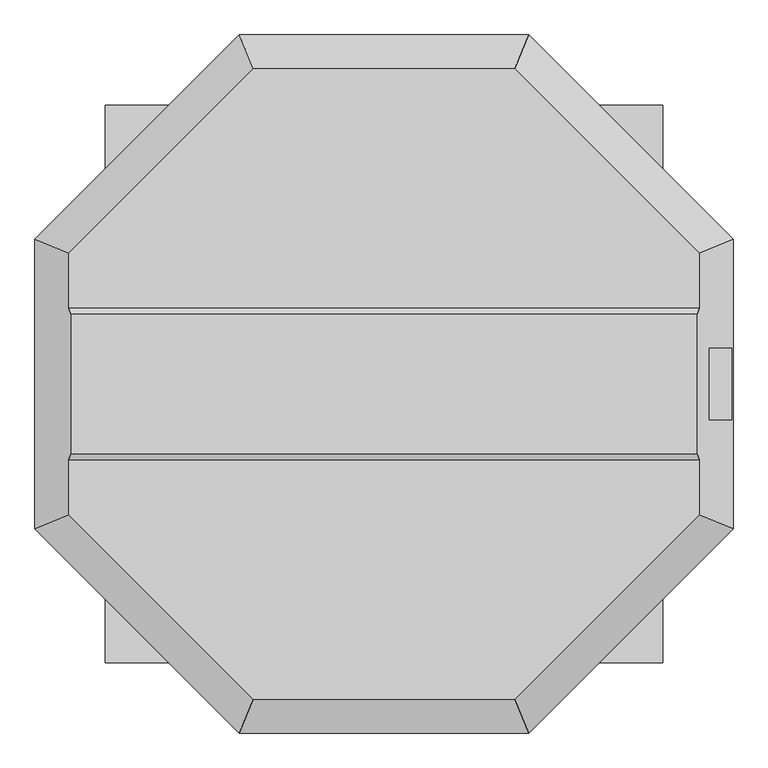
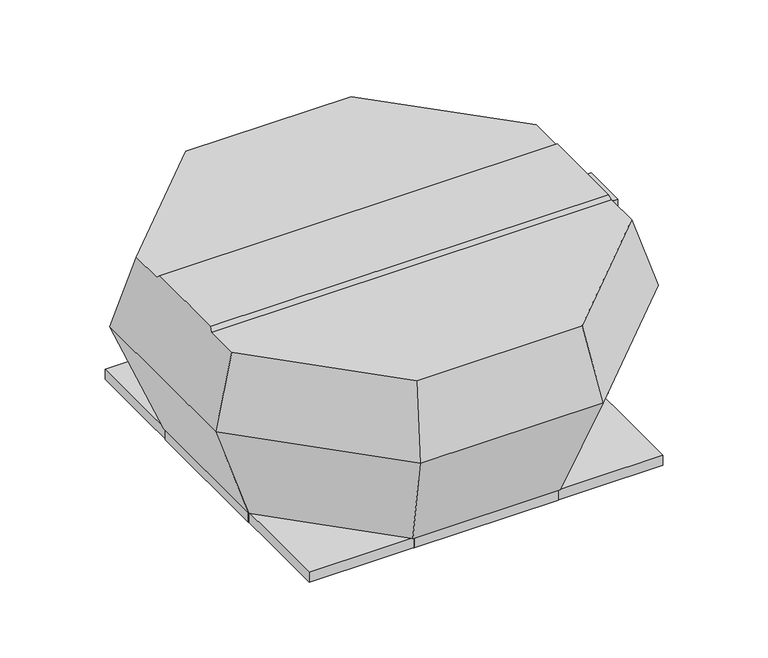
"""IFC4 building model written with IfcOpenShell, lengths in millimetres: unitary equipment geometry, VE-Wentylator-ParaForma-Harmann-VIVER_PS_EC-Wywiewny : 4-560/12000TEC."""

from ifc_helpers import new_model, si_unit, point, frame, frame_2d, origin, place, context, project, spatial, polyline, circle_curve, ellipse_curve, trimmed, segment, composite_curve, outline, extrude, faceted_brep, source, transform, mapped, element, save
from ifc_brep_helpers import plane_surface, revolved_surface, advanced_brep


def unitary_equipment_7c28f33a(model_context):
    return source(origin(), model_context, "Body", "SolidModel", [
        advanced_brep(
        [(523.3185879, -116.75, 494.7), (523.3185879, 116.75, 494.7), (-523.3185879, 116.75, 494.7), (-523.3185879, -116.75, 494.7), (526.1778459, 126.2, 485.2), (-526.1778459, 126.2, 485.2), (526.1778459, -126.2, 485.2), (-526.1778459, -126.2, 485.2), (217.95, -526.1778459, 485.2), (526.1778459, -217.95, 485.2), (-526.1778459, -217.95, 485.2), (-217.95, -526.1778459, 485.2), (526.1778459, 217.95, 485.2), (217.95, 526.1778459, 485.2), (-217.95, 526.1778459, 485.2), (-526.1778459, 217.95, 485.2), (241.4, -582.791154, 297.1), (582.791154, -241.4, 297.1), (582.791154, 241.4, 297.1), (580.4, -60.0, 305.0447055), (543.3032964, -60.0, 428.3), (543.3032964, 60.0, 428.3), (580.4, 60.0, 305.0447055), (571.2036348, 0.0, 335.6), (552.5432143, 0.0, 397.6), (241.4, 582.791154, 297.1), (-241.4, 582.791154, 297.1), (-582.791154, 241.4, 297.1), (-582.791154, -241.4, 297.1), (-241.4, -582.791154, 297.1), (580.4, -60.0, 428.3), (580.4, 60.0, 428.3), (580.4, 0.0, 397.6), (580.4, 0.0, 335.6), (193.75, -467.7538777, 1.5), (-193.75, -467.7538777, 1.5), (-467.7538777, -193.75, 1.5), (-467.7538777, 193.75, 1.5), (-193.75, 467.7538777, 1.5), (193.75, 467.7538777, 1.5), (467.7538777, 193.75, 1.5), (467.7538777, -193.75, 1.5)],
        [
            (0, 1),
            (1, 2),
            (2, 3),
            (3, 0),
            (1, 4),
            (4, 5),
            (5, 2),
            (6, 0),
            (3, 7),
            (7, 6),
            (8, 9),
            (9, 6),
            (7, 10),
            (10, 11),
            (11, 8),
            (12, 13),
            (13, 14),
            (14, 15),
            (15, 5),
            (4, 12),
            (8, 16),
            (16, 17),
            (17, 9),
            (17, 18),
            (18, 12),
            (19, 20),
            (20, 21),
            (21, 22),
            (22, 19),
            (23, 24, ellipse_curve(frame((561.8734245, 0.0, 366.6), z_axis=(0.9575690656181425, 0.0, 0.2882038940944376), x_axis=(-0.2882038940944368, 0.0, 0.9575690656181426)), 32.373644, 31.0)),
            (24, 23, ellipse_curve(frame((561.8734245, 0.0, 366.6), z_axis=(0.9575690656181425, 0.0, 0.2882038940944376), x_axis=(-0.2882038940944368, 0.0, 0.9575690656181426)), 32.373644, 31.0)),
            (18, 25),
            (25, 13),
            (25, 26),
            (26, 14),
            (26, 27),
            (27, 15),
            (27, 28),
            (28, 10),
            (28, 29),
            (29, 11),
            (29, 16),
            (19, 30),
            (30, 20),
            (31, 22),
            (21, 31),
            (31, 30),
            (32, 33, circle_curve(frame((580.4, 0.0, 366.6), z_axis=(-1.0, 0.0, 0.0), x_axis=(0.0, 0.0, -1.0)), 31.0)),
            (33, 32, circle_curve(frame((580.4, 0.0, 366.6), z_axis=(-1.0, 0.0, 0.0), x_axis=(0.0, 0.0, -1.0)), 31.0)),
            (34, 35),
            (35, 36),
            (36, 37),
            (37, 38),
            (38, 39),
            (39, 40),
            (40, 41),
            (41, 34),
            (41, 17),
            (16, 34),
            (40, 18),
            (39, 25),
            (38, 26),
            (37, 27),
            (36, 28),
            (35, 29),
            (32, 24),
            (23, 33),
        ],
        [
            plane_surface(frame((0.0, 0.0, 494.7), z_axis=(0.0, 0.0, 1.0), x_axis=(0.0, 1.0, 0.0))),
            plane_surface(frame((0.0, 126.2, 485.2), z_axis=(0.0, 0.7089700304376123, 0.7052386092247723), x_axis=(-1.0, 0.0, 0.0))),
            plane_surface(frame((0.0, -126.2, 485.2), z_axis=(0.0, -0.7089700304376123, 0.7052386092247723), x_axis=(1.0, 0.0, 0.0))),
            plane_surface(frame((0.0, 0.0, 485.2), z_axis=(0.0, 0.0, 1.0000000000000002), x_axis=(0.7071067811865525, 0.7071067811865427, 0.0))),
            plane_surface(frame((412.095577, -412.095577, 297.1), z_axis=(0.6771035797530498, -0.6771035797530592, 0.2882038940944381), x_axis=(0.7071067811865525, 0.7071067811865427, 0.0))),
            plane_surface(frame((582.791154, 0.0, 297.1), z_axis=(0.9575690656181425, 0.0, 0.2882038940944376), x_axis=(0.0, 1.0, 0.0))),
            plane_surface(frame((412.095577, 412.095577, 297.1), z_axis=(0.6771035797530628, 0.6771035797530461, 0.2882038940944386), x_axis=(-0.7071067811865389, 0.7071067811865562, 0.0))),
            plane_surface(frame((0.0, 582.791154, 297.1), z_axis=(0.0, 0.9575690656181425, 0.2882038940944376), x_axis=(-1.0, 0.0, 0.0))),
            plane_surface(frame((-412.095577, 412.095577, 297.1), z_axis=(-0.6771035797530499, 0.6771035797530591, 0.28820389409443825), x_axis=(-0.7071067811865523, -0.7071067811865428, 0.0))),
            plane_surface(frame((-582.791154, 0.0, 297.1), z_axis=(-0.9575690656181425, 0.0, 0.2882038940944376), x_axis=(0.0, -1.0, 0.0))),
            plane_surface(frame((-412.095577, -412.095577, 297.1), z_axis=(-0.6771035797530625, -0.6771035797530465, 0.2882038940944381), x_axis=(0.7071067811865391, -0.7071067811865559, 0.0))),
            plane_surface(frame((0.0, -582.791154, 297.1), z_axis=(0.0, -0.9575690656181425, 0.2882038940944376), x_axis=(1.0, 0.0, 0.0))),
            plane_surface(frame((0.0, -60.0, 0.0), z_axis=(0.0, -1.0, 0.0), x_axis=(0.0, 0.0, 1.0))),
            plane_surface(frame((0.0, 60.0, 0.0), z_axis=(0.0, 1.0, 0.0), x_axis=(0.0, 0.0, 1.0))),
            plane_surface(frame((580.4, -60.0, 324.9), z_axis=(1.0, 0.0, 0.0), x_axis=(0.0, 1.0, 0.0))),
            plane_surface(frame((580.4, -60.0, 428.3), z_axis=(0.0, 0.0, 1.0), x_axis=(0.0, 1.0, 0.0))),
            plane_surface(frame((0.0, 0.0, 1.5), z_axis=(0.0, 0.0, -1.0000000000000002), x_axis=(0.7071067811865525, 0.7071067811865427, 0.0))),
            plane_surface(frame((330.7519389, -330.7519389, 1.5), z_axis=(0.6589652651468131, -0.6589652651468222, -0.36267004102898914), x_axis=(0.7071067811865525, 0.7071067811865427, 0.0))),
            plane_surface(frame((467.7538777, 0.0, 1.5), z_axis=(0.931917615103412, 0.0, -0.3626700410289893), x_axis=(0.0, 1.0, 0.0))),
            plane_surface(frame((330.7519389, 330.7519389, 1.5), z_axis=(0.6589652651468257, 0.6589652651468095, -0.36267004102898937), x_axis=(-0.7071067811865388, 0.7071067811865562, 0.0))),
            plane_surface(frame((0.0, 467.7538777, 1.5), z_axis=(0.0, 0.931917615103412, -0.3626700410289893), x_axis=(-1.0, 0.0, 0.0))),
            plane_surface(frame((-330.7519389, 330.7519389, 1.5), z_axis=(-0.6589652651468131, 0.6589652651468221, -0.3626700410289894), x_axis=(-0.7071067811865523, -0.7071067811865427, 0.0))),
            plane_surface(frame((-467.7538777, 0.0, 1.5), z_axis=(-0.931917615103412, 0.0, -0.3626700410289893), x_axis=(0.0, -1.0, 0.0))),
            plane_surface(frame((-330.7519389, -330.7519389, 1.5), z_axis=(-0.6589652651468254, -0.6589652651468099, -0.36267004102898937), x_axis=(0.7071067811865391, -0.7071067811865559, 0.0))),
            plane_surface(frame((0.0, -467.7538777, 1.5), z_axis=(0.0, -0.931917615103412, -0.3626700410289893), x_axis=(1.0, 0.0, 0.0))),
            revolved_surface(polyline([(552.5432142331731, 0.0, 335.6), (580.4, 0.0, 335.6)]), (0.0, 0.0, 366.6), (-1.0, 0.0, 0.0)),
        ],
        [
            (0, [[1, 2, 3, 4]]),
            (1, [[5, 6, 7, -2]]),
            (2, [[8, -4, 9, 10]]),
            (3, [[11, 12, -10, 13, 14, 15]]),
            (3, [[16, 17, 18, 19, -6, 20]]),
            (4, [[-11, 21, 22, 23]]),
            (5, [[-23, 24, 25, -20, -5, -1, -8, -12], [26, 27, 28, 29]]),
            (5, [[30, 31]]),
            (6, [[-16, -25, 32, 33]]),
            (7, [[-17, -33, 34, 35]]),
            (8, [[-18, -35, 36, 37]]),
            (9, [[-37, 38, 39, -13, -9, -3, -7, -19]]),
            (10, [[-14, -39, 40, 41]]),
            (11, [[-15, -41, 42, -21]]),
            (12, [[43, 44, -26]]),
            (13, [[45, -28, 46]]),
            (14, [[47, -43, -29, -45], [48, 49]]),
            (15, [[-47, -46, -27, -44]]),
            (16, [[50, 51, 52, 53, 54, 55, 56, 57]]),
            (17, [[-57, 58, -22, 59]]),
            (18, [[-56, 60, -24, -58]]),
            (19, [[-55, 61, -32, -60]]),
            (20, [[-54, 62, -34, -61]]),
            (21, [[-53, 63, -36, -62]]),
            (22, [[-52, 64, -38, -63]]),
            (23, [[-51, 65, -40, -64]]),
            (24, [[-50, -59, -42, -65]]),
            (25, [[-48, 66, -30, 67]]),
            (25, [[-49, -67, -31, -66]]),
        ],
    ),
        faceted_brep([(464.05, 464.05, -26.5), (464.05, 464.05, 0.0), (-464.05, 464.05, 0.0), (-464.05, 464.05, -26.5), (465.55, 465.55, 1.5), (465.55, 465.55, -26.5), (-465.55, 465.55, -26.5), (-465.55, 465.55, 1.5), (-464.05, -464.05, 0.0), (-464.05, -464.05, -26.5), (-465.55, -465.55, -26.5), (-465.55, -465.55, 1.5), (464.05, -464.05, 0.0), (464.05, -464.05, -26.5), (465.55, -465.55, -26.5), (465.55, -465.55, 1.5)], [[[0, 1, 2, 3]], [[4, 5, 6, 7]], [[3, 2, 8, 9]], [[7, 6, 10, 11]], [[9, 8, 12, 13]], [[11, 10, 14, 15]], [[13, 12, 1, 0]], [[5, 14, 10, 6], [3, 9, 13, 0]], [[15, 14, 5, 4]], [[7, 11, 15, 4]], [[1, 12, 8, 2]]]),
        extrude(outline(composite_curve([segment(trimmed(circle_curve(frame_2d((0.0, 366.6)), 31.0), [point((0.0, 397.6))], [point((0.0, 335.6))], False, "CARTESIAN"), True, "CONTINUOUS"), segment(trimmed(circle_curve(frame_2d((0.0, 366.6)), 31.0), [point((0.0, 335.6))], [point((0.0, 397.6))], False, "CARTESIAN"), True, "CONTINUOUS")], self_intersect=False)), frame((570.4, 0.0, 0.0), z_axis=(1.0, 0.0, 0.0), x_axis=(0.0, 1.0, 0.0)), (0.0, 0.0, 1.0), 10.0),
        faceted_brep([(-465.6, -190.1, -26.6), (-466.6, -190.1, -26.6), (-466.6, 190.1, -26.6), (-465.6, 190.1, -26.6), (-465.6, -190.1, 1.5), (-465.6, 190.1, 1.5), (-466.6, 190.1, 1.5), (-466.6, -190.1, 1.5)], [[[0, 1, 2, 3]], [[4, 5, 6, 7]], [[1, 0, 4, 7]], [[2, 1, 7, 6]], [[3, 2, 6, 5]], [[0, 3, 5, 4]]]),
        faceted_brep([(466.6, -190.1, -26.6), (465.6, -190.1, -26.6), (465.6, 190.1, -26.6), (466.6, 190.1, -26.6), (466.6, 190.1, 1.5), (465.6, 190.1, 1.5), (465.6, -190.1, 1.5), (466.6, -190.1, 1.5), (466.6, -179.8, 1.5), (496.6, -162.5, 1.5), (496.6, 162.5, 1.5), (466.6, 179.8, 1.5), (466.6, 179.8, 0.0), (466.6, -179.8, 0.0), (496.6, 162.5, 0.0), (493.5, 162.5, 0.0), (493.5, -162.5, 0.0), (496.6, -162.5, 0.0), (496.6, -162.5, -21.0), (496.6, 162.5, -21.0), (493.5, -162.5, -21.0), (493.5, 162.5, -21.0)], [[[0, 1, 2, 3]], [[4, 5, 6, 7, 8, 9, 10, 11]], [[1, 0, 7, 6]], [[2, 1, 6, 5]], [[3, 2, 5, 4]], [[0, 3, 4, 11, 12, 13, 8, 7]], [[12, 14, 15, 16, 17, 13]], [[14, 12, 11, 10]], [[10, 9, 17, 18, 19, 14]], [[13, 17, 9, 8]], [[20, 16, 15, 21]], [[16, 20, 18, 17]], [[21, 15, 14, 19]], [[20, 21, 19, 18]]]),
        faceted_brep([(190.1, 465.6, -26.6), (-190.1, 465.6, -26.6), (-190.1, 466.6, -26.6), (190.1, 466.6, -26.6), (190.1, 465.6, 1.5), (190.1, 466.6, 1.5), (-190.1, 466.6, 1.5), (-190.1, 465.6, 1.5)], [[[0, 1, 2, 3]], [[4, 5, 6, 7]], [[1, 0, 4, 7]], [[2, 1, 7, 6]], [[3, 2, 6, 5]], [[0, 3, 5, 4]]]),
        faceted_brep([(190.1, -466.6, -26.6), (-190.1, -466.6, -26.6), (-190.1, -465.6, -26.6), (190.1, -465.6, -26.6), (190.1, -466.6, 1.5), (190.1, -465.6, 1.5), (-190.1, -465.6, 1.5), (-190.1, -466.6, 1.5)], [[[0, 1, 2, 3]], [[4, 5, 6, 7]], [[1, 0, 4, 7]], [[2, 1, 7, 6]], [[3, 2, 6, 5]], [[0, 3, 5, 4]]]),
    ])


if __name__ == "__main__":
    model = new_model("IFC4")
    model_context = context("Model", 3, world=origin())
    ifc_project = project(units=[si_unit("LENGTHUNIT", "METRE", prefix="MILLI")], contexts=[model_context])
    site = spatial("IfcSite", under=ifc_project)
    building = spatial("IfcBuilding", under=site)
    placement = place(None, origin())
    unitary_equipment_shape = unitary_equipment_7c28f33a(model_context)
    element("IfcUnitaryEquipment", 1, ObjectType="VE-Wentylator-ParaForma-Harmann-VIVER_PS_EC-Wywiewny : 4-560/12000TEC", at=placement, inside=building, context=model_context, shape_type="MappedRepresentation", body=[
        mapped(unitary_equipment_shape, transform((0.0, 0.0, 0.0), x_axis=(1.0, 0.0, 0.0), y_axis=(0.0, 1.0, 0.0), z_axis=(0.0, 0.0, 1.0))),
    ])
    save(model, "model.ifc")
